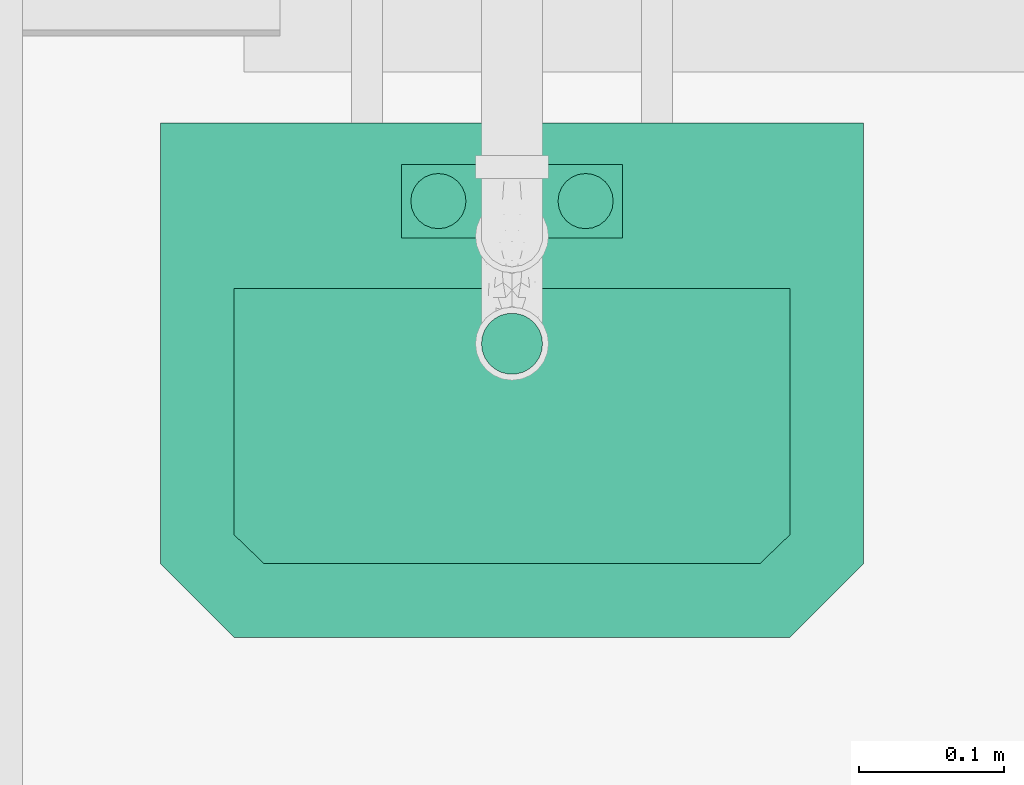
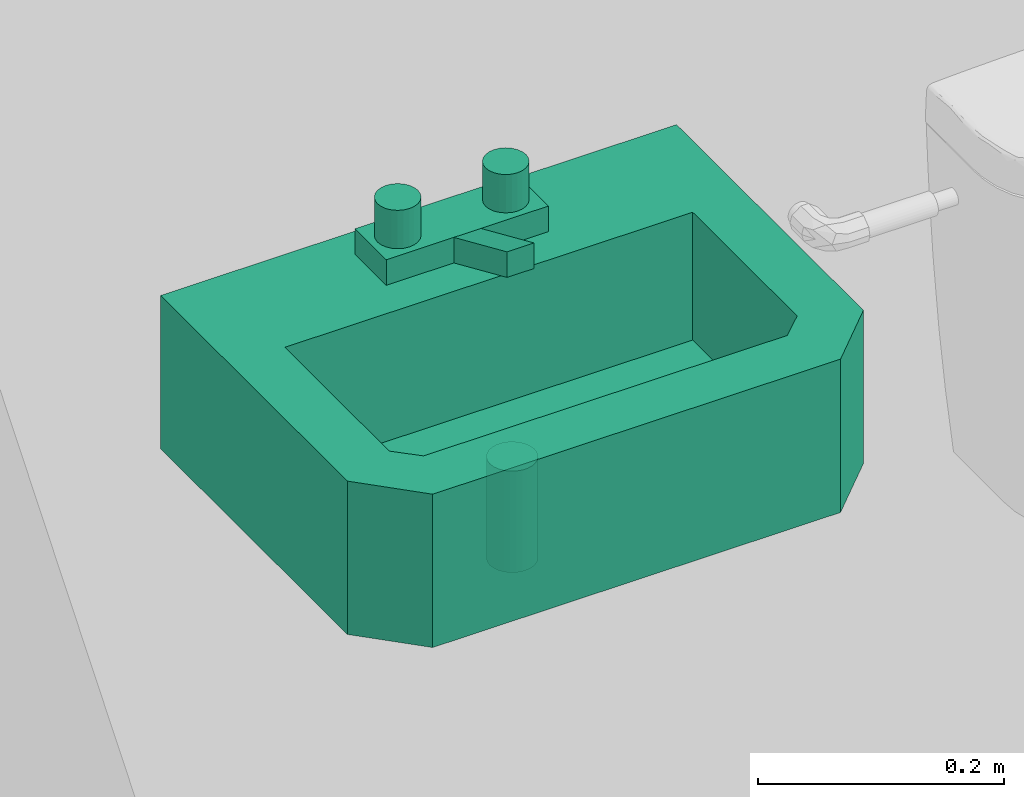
# One storey, part 20 of 41: 1 flow segment, 1 flow terminal.
"""IFC2X3 building model written with IfcOpenShell, lengths in millimetres."""

from ifc_helpers import new_model, entity, si_unit, converted_unit, derived_unit, direction, frame, origin, origin_2d_with_axis, place, context, subcontext, project, spatial, circle, extrude, faceted_brep, source, transform, mapped, type_object, element, save


model = new_model("IFC2X3")

# Units and contexts
model_context = context("Model", 3, precision=0.01, world=origin(), true_north=direction((6.12303176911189e-17, 1.0)))
body_context = subcontext(model_context, "Body", "Model", "MODEL_VIEW")
ifc_project = project(units=[si_unit("LENGTHUNIT", "METRE", prefix="MILLI"), si_unit("AREAUNIT", "SQUARE_METRE"), si_unit("VOLUMEUNIT", "CUBIC_METRE"), converted_unit("PLANEANGLEUNIT", "DEGREE", entity("IfcRatioMeasure", 0.0174532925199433), si_unit("PLANEANGLEUNIT", "RADIAN"), dimensions=[0, 0, 0, 0, 0, 0, 0]), si_unit("MASSUNIT", "GRAM", prefix="KILO"), derived_unit("MASSDENSITYUNIT", [(si_unit("MASSUNIT", "GRAM", prefix="KILO"), 1), (si_unit("LENGTHUNIT", "METRE"), -3)]), si_unit("TIMEUNIT", "SECOND"), si_unit("FREQUENCYUNIT", "HERTZ"), si_unit("THERMODYNAMICTEMPERATUREUNIT", "DEGREE_CELSIUS"), derived_unit("THERMALTRANSMITTANCEUNIT", [(si_unit("MASSUNIT", "GRAM", prefix="KILO"), 1), (si_unit("THERMODYNAMICTEMPERATUREUNIT", "KELVIN"), -1), (si_unit("TIMEUNIT", "SECOND"), -3)]), derived_unit("VOLUMETRICFLOWRATEUNIT", [(si_unit("LENGTHUNIT", "METRE"), 3), (si_unit("TIMEUNIT", "SECOND"), -1)]), si_unit("ELECTRICCURRENTUNIT", "AMPERE"), si_unit("ELECTRICVOLTAGEUNIT", "VOLT"), si_unit("POWERUNIT", "WATT"), si_unit("FORCEUNIT", "NEWTON", prefix="KILO"), si_unit("ILLUMINANCEUNIT", "LUX"), si_unit("LUMINOUSFLUXUNIT", "LUMEN"), si_unit("LUMINOUSINTENSITYUNIT", "CANDELA"), derived_unit("USERDEFINED", [(si_unit("MASSUNIT", "GRAM", prefix="KILO"), -1), (si_unit("LENGTHUNIT", "METRE"), -2), (si_unit("TIMEUNIT", "SECOND"), 3), (si_unit("LUMINOUSFLUXUNIT", "LUMEN"), 1)]), derived_unit("LINEARVELOCITYUNIT", [(si_unit("LENGTHUNIT", "METRE"), 1), (si_unit("TIMEUNIT", "SECOND"), -1)]), si_unit("PRESSUREUNIT", "PASCAL"), derived_unit("USERDEFINED", [(si_unit("LENGTHUNIT", "METRE"), -2), (si_unit("MASSUNIT", "GRAM", prefix="KILO"), 1), (si_unit("TIMEUNIT", "SECOND"), -2)])], contexts=[model_context])

# Site, building, storey
site_placement = place(None, origin())
site = spatial("IfcSite", under=ifc_project, at=site_placement, Name="Surface", CompositionType="ELEMENT")
building_placement = place(site_placement, origin())
building = spatial("IfcBuilding", under=site, at=building_placement, CompositionType="ELEMENT")
storey_placement = place(building_placement, frame((0.0, 0.0, 300.0)))
storey = spatial("IfcBuildingStorey", under=building, at=storey_placement, Name="F.F.L", CompositionType="ELEMENT", Elevation=300.0)

# Flow segment
pipe_segment_type = type_object("IfcPipeSegmentType", Name="Pipe Types:PVC80", PredefinedType="NOTDEFINED")
flow_segment_placement = place(storey_placement, origin())
element("IfcFlowSegment", 1, at=flow_segment_placement, inside=storey, type_object=pipe_segment_type, Name="Pipe Types:PVC80", ObjectType="Pipe Types:PVC80", context=body_context, shape_type="SweptSolid", body=[
    extrude(circle(Radius=21.082, at=origin_2d_with_axis()), frame((-1971.87517007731, 10333.4400891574, 611.799999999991)), (0.0, 0.0, 1.0), 100.799999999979),
])

# Space
space_placement = place(storey_placement, origin())
space = spatial("IfcSpace", under=storey, at=space_placement, Name="4", CompositionType="ELEMENT", InteriorOrExteriorSpace="INTERNAL")

# Flow terminal
shared_shape = source(origin(), body_context, "Body", "Brep", [
    faceted_brep([(9.52500000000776, -152.400000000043, 135.902216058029), (13.4703841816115, -152.400000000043, 138.929615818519), (16.4977839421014, -152.400000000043, 142.875000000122), (18.4008869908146, -152.400000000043, 147.469497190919), (19.0500000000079, -152.400000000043, 152.400000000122), (18.4008869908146, -152.400000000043, 157.330502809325), (16.4977839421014, -152.400000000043, 161.925000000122), (13.4703841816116, -152.400000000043, 165.870384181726), (9.52500000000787, -152.400000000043, 168.897783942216), (4.9305028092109, -152.400000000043, 170.800886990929), (0.0, -152.400000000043, 171.450000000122), (-4.93050280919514, -152.400000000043, 170.800886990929), (-9.52499999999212, -152.400000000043, 168.897783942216), (-13.4703841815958, -152.400000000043, 165.870384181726), (-16.4977839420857, -152.400000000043, 161.925000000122), (-18.4008869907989, -152.400000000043, 157.330502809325), (-19.0499999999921, -152.400000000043, 152.400000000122), (-18.4008869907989, -152.400000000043, 147.469497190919), (-16.4977839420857, -152.400000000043, 142.875000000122), (-13.4703841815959, -152.400000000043, 138.929615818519), (-9.52499999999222, -152.400000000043, 135.902216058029), (-4.93050280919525, -152.400000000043, 133.999113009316), (0.0, -152.400000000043, 133.350000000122), (4.93050280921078, -152.400000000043, 133.999113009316), (-9.52499999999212, -127.0, 168.897783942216), (-4.93050280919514, -127.0, 170.80088699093), (0.0, -127.0, 171.450000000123), (4.9305028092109, -127.0, 170.800886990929), (9.52500000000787, -127.0, 168.897783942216), (13.4703841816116, -127.0, 165.870384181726), (16.4977839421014, -127.0, 161.925000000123), (18.4008869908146, -127.0, 157.330502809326), (19.0500000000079, -127.0, 152.400000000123), (18.4008869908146, -127.0, 147.46949719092), (16.4977839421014, -127.0, 142.875000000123), (13.4703841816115, -127.0, 138.929615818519), (9.52500000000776, -127.0, 135.902216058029), (4.93050280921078, -127.0, 133.999113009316), (0.0, -127.0, 133.350000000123), (-4.93050280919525, -127.0, 133.999113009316), (-9.52499999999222, -127.0, 135.902216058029), (-13.4703841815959, -127.0, 138.929615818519), (-16.4977839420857, -127.0, 142.875000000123), (-18.4008869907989, -127.0, 147.46949719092), (-19.0499999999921, -127.0, 152.400000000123), (-18.4008869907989, -127.0, 157.330502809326), (-16.4977839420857, -127.0, 161.925000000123), (-13.4703841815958, -127.0, 165.870384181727)], [[[0, 1, 2, 3, 4, 5, 6, 7, 8, 9, 10, 11, 12, 13, 14, 15, 16, 17, 18, 19, 20, 21, 22, 23]], [[24, 25, 26, 27, 28, 29, 30, 31, 32, 33, 34, 35, 36, 37, 38, 39, 40, 41, 42, 43, 44, 45, 46, 47]], [[43, 17, 16, 44]], [[42, 18, 17, 43]], [[20, 19, 41, 40]], [[42, 41, 19, 18]], [[21, 20, 40, 39]], [[22, 21, 39, 38]], [[0, 36, 35, 1]], [[2, 34, 33, 3]], [[35, 34, 2, 1]], [[3, 33, 32, 4]], [[36, 0, 23, 37]], [[23, 22, 38, 37]], [[31, 5, 4, 32]], [[30, 6, 5, 31]], [[8, 7, 29, 28]], [[30, 29, 7, 6]], [[9, 8, 28, 27]], [[27, 26, 10, 9]], [[11, 25, 24, 12]], [[47, 13, 12, 24]], [[14, 46, 45, 15]], [[47, 46, 14, 13]], [[15, 45, 44, 16]], [[25, 11, 10, 26]]]),
    faceted_brep([(-4.93050280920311, -152.400000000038, 170.800886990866), (-191.699999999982, -152.40000000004, 355.0), (-9.52500000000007, -152.400000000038, 168.897783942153), (0.0, -152.400000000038, 171.450000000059), (191.700000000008, -152.40000000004, 355.0), (4.93050280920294, -152.400000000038, 170.800886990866), (9.5249999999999, -152.400000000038, 168.897783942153), (13.4703841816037, -152.400000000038, 165.870384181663), (16.4977839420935, -152.400000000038, 161.925000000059), (242.500000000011, -152.40000000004, 304.200000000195), (18.4008869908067, -152.400000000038, 157.330502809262), (19.05, -152.400000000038, 152.400000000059), (242.500000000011, -152.400000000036, 0.0), (18.4008869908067, -152.400000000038, 147.469497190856), (16.4977839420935, -152.400000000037, 142.875000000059), (13.4703841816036, -152.400000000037, 138.929615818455), (9.5249999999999, -152.400000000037, 135.902216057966), (4.9305028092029, -152.400000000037, 133.999113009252), (0.0, -152.400000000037, 133.350000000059), (-242.499999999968, -152.400000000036, 0.0), (-4.93050280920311, -152.400000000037, 133.999113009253), (-9.52500000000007, -152.400000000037, 135.902216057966), (-13.4703841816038, -152.400000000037, 138.929615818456), (-16.4977839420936, -152.400000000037, 142.875000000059), (-18.4008869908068, -152.400000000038, 147.469497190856), (-19.05, -152.400000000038, 152.400000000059), (-242.499999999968, -152.40000000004, 304.200000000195), (-18.4008869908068, -152.400000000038, 157.330502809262), (-16.4977839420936, -152.400000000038, 161.925000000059), (-13.4703841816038, -152.400000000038, 165.870384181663), (-191.699999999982, 0.0, 114.300000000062), (-242.499999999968, 0.0, 304.200000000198), (-191.699999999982, 0.0, 284.289321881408), (-242.499999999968, 0.0, 0.0), (191.700000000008, 0.0, 114.300000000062), (242.500000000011, 0.0, 0.0), (242.500000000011, 0.0, 304.200000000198), (191.700000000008, 0.0, 284.289321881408), (191.700000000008, 0.0, 355.0), (170.989321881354, 0.0, 304.200000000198), (-191.699999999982, 0.0, 355.0), (-170.989321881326, 0.0, 304.200000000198), (-19.05, -127.0, 152.40000000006), (-18.4008869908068, -127.0, 147.469497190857), (-16.4977839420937, -127.0, 142.87500000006), (-9.52500000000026, -127.0, 135.902216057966), (-13.4703841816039, -127.0, 138.929615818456), (-4.93050280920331, -127.0, 133.999113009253), (0.0, -127.0, 133.35000000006), (13.4703841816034, -127.0, 138.929615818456), (9.52499999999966, -127.0, 135.902216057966), (18.4008869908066, -127.0, 147.469497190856), (16.4977839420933, -127.0, 142.875000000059), (19.05, -127.0, 152.400000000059), (4.93050280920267, -127.0, 133.999113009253), (18.4008869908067, -127.0, 157.330502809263), (16.4977839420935, -127.0, 161.92500000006), (9.52499999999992, -127.0, 168.897783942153), (13.4703841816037, -127.0, 165.870384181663), (4.93050280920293, -127.0, 170.800886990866), (0.0, -127.0, 171.45000000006), (-9.52500000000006, -127.0, 168.897783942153), (-4.9305028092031, -127.0, 170.800886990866), (-13.4703841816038, -127.0, 165.870384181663), (-18.4008869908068, -127.0, 157.330502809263), (-16.4977839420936, -127.0, 161.92500000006), (170.989321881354, -127.0, 304.200000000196), (191.700000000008, -127.0, 284.289321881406), (-170.989321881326, -127.0, 304.200000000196), (-191.699999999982, -127.0, 284.289321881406), (-191.699999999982, -127.0, 114.30000000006), (191.700000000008, -127.0, 114.30000000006)], [[[0, 1, 2]], [[1, 0, 3]], [[3, 4, 1]], [[3, 5, 4]], [[4, 5, 6]], [[6, 7, 4]], [[7, 8, 4]], [[8, 9, 4]], [[8, 10, 9]], [[9, 10, 11]], [[11, 12, 9]], [[11, 13, 12]], [[14, 12, 13]], [[14, 15, 12]], [[16, 12, 15]], [[12, 16, 17]], [[17, 18, 12]], [[18, 19, 12]], [[19, 18, 20]], [[20, 21, 19]], [[22, 19, 21]], [[19, 22, 23]], [[23, 24, 19]], [[24, 25, 19]], [[25, 26, 19]], [[26, 25, 27]], [[27, 28, 26]], [[28, 1, 26]], [[28, 29, 1]], [[29, 2, 1]], [[30, 31, 32]], [[31, 30, 33]], [[33, 30, 34]], [[34, 35, 33]], [[36, 35, 34]], [[36, 34, 37]], [[38, 36, 37]], [[38, 37, 39]], [[38, 39, 40]], [[41, 40, 39]], [[32, 40, 41]], [[40, 32, 31]], [[19, 26, 31, 33]], [[12, 19, 33, 35]], [[9, 12, 35, 36]], [[4, 9, 36, 38]], [[1, 4, 38, 40]], [[26, 1, 40, 31]], [[42, 25, 24, 43]], [[43, 24, 23, 44]], [[45, 46, 22, 21]], [[22, 46, 44, 23]], [[47, 45, 21, 20]], [[47, 20, 18, 48]], [[49, 50, 16, 15]], [[51, 52, 14, 13]], [[15, 14, 52, 49]], [[53, 51, 13, 11]], [[54, 17, 16, 50]], [[54, 48, 18, 17]], [[53, 11, 10, 55]], [[55, 10, 8, 56]], [[57, 58, 7, 6]], [[7, 58, 56, 8]], [[59, 57, 6, 5]], [[5, 3, 60, 59]], [[61, 62, 0, 2]], [[61, 2, 29, 63]], [[64, 65, 28, 27]], [[29, 28, 65, 63]], [[42, 64, 27, 25]], [[60, 3, 0, 62]], [[56, 66, 67]], [[58, 66, 56]], [[55, 56, 67]], [[66, 58, 57]], [[66, 57, 59]], [[66, 59, 60]], [[60, 68, 66]], [[68, 60, 62]], [[68, 62, 61]], [[68, 61, 63]], [[63, 65, 68]], [[65, 69, 68]], [[69, 65, 64]], [[64, 70, 69]], [[70, 64, 42]], [[70, 42, 43]], [[43, 44, 70]], [[46, 70, 44]], [[70, 46, 45]], [[47, 70, 45]], [[70, 47, 48]], [[71, 70, 48]], [[48, 54, 71]], [[71, 54, 50]], [[71, 50, 49]], [[71, 49, 52]], [[52, 51, 71]], [[53, 71, 51]], [[71, 53, 55]], [[67, 71, 55]], [[39, 66, 68, 41]], [[41, 68, 69, 32]], [[32, 69, 70, 30]], [[30, 70, 71, 34]], [[34, 71, 67, 37]], [[37, 67, 66, 39]]]),
    faceted_brep([(-45.8694971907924, 25.3999999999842, 35.5741130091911), (-41.2749999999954, 25.3999999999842, 37.4772160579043), (-37.3296158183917, 25.3999999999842, 40.5046158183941), (-34.3022160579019, 25.3999999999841, 44.4499999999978), (-32.3991130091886, 25.399999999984, 49.0444971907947), (-31.7499999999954, 25.399999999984, 53.9749999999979), (-32.3991130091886, 25.3999999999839, 58.9055028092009), (-34.3022160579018, 25.3999999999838, 63.4999999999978), (-37.3296158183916, 25.3999999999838, 67.4453841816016), (-41.2749999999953, 25.3999999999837, 70.4727839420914), (-45.8694971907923, 25.3999999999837, 72.3758869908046), (-50.7999999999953, 25.3999999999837, 73.0249999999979), (-55.7305028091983, 25.3999999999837, 72.3758869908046), (-60.3249999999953, 25.3999999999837, 70.4727839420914), (-64.2703841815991, 25.3999999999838, 67.4453841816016), (-67.2977839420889, 25.3999999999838, 63.4999999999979), (-69.2008869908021, 25.3999999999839, 58.9055028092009), (-69.8499999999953, 25.399999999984, 53.9749999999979), (-69.2008869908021, 25.399999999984, 49.0444971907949), (-67.2977839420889, 25.3999999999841, 44.4499999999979), (-64.2703841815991, 25.3999999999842, 40.5046158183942), (-60.3249999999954, 25.3999999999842, 37.4772160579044), (-55.7305028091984, 25.3999999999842, 35.5741130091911), (-50.7999999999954, 25.3999999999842, 34.9249999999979), (-37.3296158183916, 63.4999999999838, 67.4453841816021), (-34.3022160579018, 63.4999999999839, 63.4999999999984), (-32.3991130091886, 63.4999999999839, 58.9055028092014), (-31.7499999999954, 63.499999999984, 53.9749999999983), (-32.3991130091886, 63.4999999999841, 49.0444971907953), (-34.3022160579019, 63.4999999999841, 44.4499999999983), (-37.3296158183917, 63.4999999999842, 40.5046158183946), (-41.2749999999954, 63.4999999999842, 37.4772160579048), (-45.8694971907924, 63.4999999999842, 35.5741130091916), (-50.7999999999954, 63.4999999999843, 34.9249999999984), (-55.7305028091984, 63.4999999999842, 35.5741130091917), (-60.3249999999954, 63.4999999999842, 37.4772160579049), (-64.2703841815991, 63.4999999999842, 40.5046158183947), (-67.2977839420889, 63.4999999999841, 44.4499999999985), (-69.2008869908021, 63.4999999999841, 49.0444971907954), (-69.8499999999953, 63.499999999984, 53.9749999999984), (-69.2008869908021, 63.4999999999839, 58.9055028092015), (-67.2977839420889, 63.4999999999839, 63.4999999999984), (-64.2703841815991, 63.4999999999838, 67.4453841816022), (-60.3249999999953, 63.4999999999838, 70.472783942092), (-55.7305028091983, 63.4999999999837, 72.3758869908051), (-50.7999999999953, 63.4999999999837, 73.0249999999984), (-45.8694971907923, 63.4999999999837, 72.3758869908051), (-41.2749999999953, 63.4999999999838, 70.4727839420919)], [[[0, 1, 2, 3, 4, 5, 6, 7, 8, 9, 10, 11, 12, 13, 14, 15, 16, 17, 18, 19, 20, 21, 22, 23]], [[24, 25, 26, 27, 28, 29, 30, 31, 32, 33, 34, 35, 36, 37, 38, 39, 40, 41, 42, 43, 44, 45, 46, 47]], [[36, 20, 19, 37]], [[21, 35, 34, 22]], [[20, 36, 35, 21]], [[22, 34, 33, 23]], [[17, 39, 38, 18]], [[38, 37, 19, 18]], [[0, 32, 31, 1]], [[30, 2, 1, 31]], [[3, 29, 28, 4]], [[30, 29, 3, 2]], [[4, 28, 27, 5]], [[32, 0, 23, 33]], [[26, 6, 5, 27]], [[25, 7, 6, 26]], [[46, 45, 11, 10]], [[24, 8, 7, 25]], [[9, 47, 46, 10]], [[9, 8, 24, 47]], [[12, 44, 43, 13]], [[42, 14, 13, 43]], [[15, 41, 40, 16]], [[42, 41, 15, 14]], [[16, 40, 39, 17]], [[44, 12, 11, 45]]]),
    faceted_brep([(12.7000000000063, 63.4999999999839, 165.977540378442), (-12.6999999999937, 63.4999999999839, 165.977540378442), (-12.6999999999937, 38.0999999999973, 165.977540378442), (12.7000000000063, 38.0999999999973, 165.977540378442), (12.7000000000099, 25.3999999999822, 79.3749999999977), (12.7000000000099, 0.0, 79.3749999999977), (-12.6999999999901, 0.0, 79.3749999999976), (-12.6999999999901, 25.3999999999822, 79.3749999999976)], [[[0, 1, 2, 3]], [[4, 5, 6, 7]], [[4, 7, 1, 0]], [[7, 6, 2, 1]], [[6, 5, 3, 2]], [[5, 4, 0, 3]]]),
    faceted_brep([(55.7305028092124, 25.3999999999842, 35.5741130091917), (60.3250000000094, 25.3999999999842, 37.4772160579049), (64.2703841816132, 25.3999999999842, 40.5046158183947), (67.297783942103, 25.3999999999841, 44.4499999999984), (69.2008869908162, 25.399999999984, 49.0444971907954), (69.8500000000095, 25.399999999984, 53.9749999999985), (69.2008869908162, 25.3999999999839, 58.9055028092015), (67.2977839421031, 25.3999999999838, 63.4999999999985), (64.2703841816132, 25.3999999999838, 67.4453841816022), (60.3250000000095, 25.3999999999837, 70.4727839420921), (55.7305028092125, 25.3999999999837, 72.3758869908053), (50.8000000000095, 25.3999999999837, 73.0249999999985), (45.8694971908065, 25.3999999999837, 72.3758869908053), (41.2750000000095, 25.3999999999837, 70.4727839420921), (37.3296158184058, 25.3999999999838, 67.4453841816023), (34.302216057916, 25.3999999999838, 63.4999999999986), (32.3991130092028, 25.3999999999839, 58.9055028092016), (31.7500000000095, 25.399999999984, 53.9749999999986), (32.3991130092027, 25.399999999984, 49.0444971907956), (34.3022160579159, 25.3999999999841, 44.4499999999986), (37.3296158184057, 25.3999999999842, 40.5046158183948), (41.2750000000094, 25.3999999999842, 37.477216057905), (45.8694971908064, 25.3999999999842, 35.5741130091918), (50.8000000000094, 25.3999999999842, 34.9249999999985), (50.8000000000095, 63.4999999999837, 73.024999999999), (55.7305028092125, 63.4999999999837, 72.3758869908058), (60.3250000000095, 63.4999999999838, 70.4727839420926), (64.2703841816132, 63.4999999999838, 67.4453841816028), (67.2977839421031, 63.4999999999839, 63.499999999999), (69.2008869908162, 63.4999999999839, 58.9055028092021), (69.8500000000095, 63.499999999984, 53.9749999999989), (69.2008869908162, 63.4999999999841, 49.0444971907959), (67.297783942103, 63.4999999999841, 44.4499999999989), (64.2703841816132, 63.4999999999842, 40.5046158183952), (60.3250000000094, 63.4999999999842, 37.4772160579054), (55.7305028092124, 63.4999999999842, 35.5741130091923), (50.8000000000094, 63.4999999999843, 34.924999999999), (45.8694971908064, 63.4999999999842, 35.5741130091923), (41.2750000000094, 63.4999999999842, 37.4772160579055), (37.3296158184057, 63.4999999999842, 40.5046158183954), (34.3022160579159, 63.4999999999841, 44.4499999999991), (32.3991130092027, 63.4999999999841, 49.0444971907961), (31.7500000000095, 63.499999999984, 53.9749999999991), (32.3991130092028, 63.4999999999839, 58.9055028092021), (34.302216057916, 63.4999999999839, 63.4999999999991), (37.3296158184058, 63.4999999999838, 67.4453841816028), (41.2750000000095, 63.4999999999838, 70.4727839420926), (45.8694971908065, 63.4999999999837, 72.3758869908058)], [[[0, 1, 2, 3, 4, 5, 6, 7, 8, 9, 10, 11, 12, 13, 14, 15, 16, 17, 18, 19, 20, 21, 22, 23]], [[24, 25, 26, 27, 28, 29, 30, 31, 32, 33, 34, 35, 36, 37, 38, 39, 40, 41, 42, 43, 44, 45, 46, 47]], [[39, 20, 19, 40]], [[21, 38, 37, 22]], [[20, 39, 38, 21]], [[22, 37, 36, 23]], [[17, 42, 41, 18]], [[41, 40, 19, 18]], [[0, 35, 34, 1]], [[33, 2, 1, 34]], [[3, 32, 31, 4]], [[33, 32, 3, 2]], [[4, 31, 30, 5]], [[35, 0, 23, 36]], [[29, 6, 5, 30]], [[28, 7, 6, 29]], [[25, 24, 11, 10]], [[27, 8, 7, 28]], [[9, 26, 25, 10]], [[9, 8, 27, 26]], [[12, 47, 46, 13]], [[45, 14, 13, 46]], [[15, 44, 43, 16]], [[45, 44, 15, 14]], [[16, 43, 42, 17]], [[47, 12, 11, 24]]]),
    faceted_brep([(-76.1999999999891, 0.0, 79.3749999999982), (-76.1999999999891, 0.0, 28.5749999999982), (76.2000000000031, 0.0, 28.5749999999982), (76.2000000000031, 0.0, 79.3749999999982), (-76.1999999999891, 25.3999999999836, 79.3749999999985), (76.2000000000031, 25.3999999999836, 79.3749999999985), (76.2000000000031, 25.3999999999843, 28.5749999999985), (-76.1999999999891, 25.3999999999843, 28.5749999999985)], [[[0, 1, 2, 3]], [[4, 5, 6, 7]], [[1, 0, 4, 7]], [[2, 1, 7, 6]], [[3, 2, 6, 5]], [[0, 3, 5, 4]]]),
])
flow_terminal_placement = place(space_placement, frame((-1971.87517007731, 10485.8400891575, 865.0), z_axis=(0.0, -1.0, 0.0), x_axis=(1.0, 0.0, 0.0)))
element("IfcFlowTerminal", 2, at=flow_terminal_placement, inside=space, Name="M_Lavatory - Wall Mounted:485 mmx355 mm - Private", ObjectType="485 mmx355 mm - Private", context=body_context, shape_type="MappedRepresentation", body=[
    mapped(shared_shape, transform((0.0, 0.0, 0.0), scale=1.0)),
])

save(model, "model.ifc")
